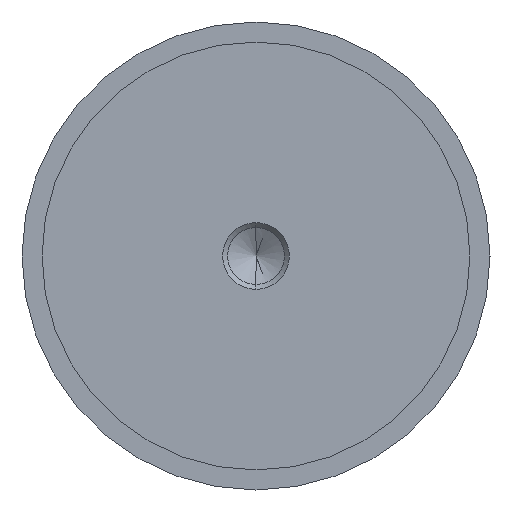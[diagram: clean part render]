
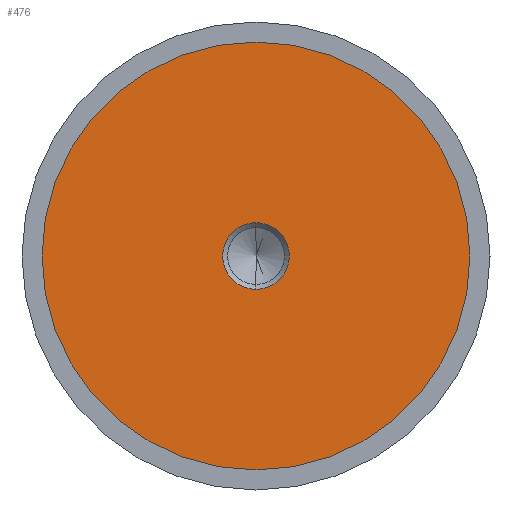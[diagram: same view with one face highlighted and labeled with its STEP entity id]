
A CAD part, left-side view. The second image highlights one B-rep face of the part: STEP entity #476.
In plain terms, the highlighted planar face has unit normal (-1, 0, 0).
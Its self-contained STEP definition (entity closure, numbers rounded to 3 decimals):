
#3 = ORIENTED_EDGE ( 'NONE', *, *, #36, .T. ) ;
#36 = EDGE_CURVE ( 'NONE', #724, #721, #343, .T. ) ;
#44 = CARTESIAN_POINT ( 'NONE',  ( -34.99, 32., 0. ) ) ;
#45 = AXIS2_PLACEMENT_3D ( 'NONE', #44, #274, #659 ) ;
#47 = AXIS2_PLACEMENT_3D ( 'NONE', #740, #668, #605 ) ;
#88 = DIRECTION ( 'NONE',  ( -1., 0., 0. ) ) ;
#100 = FACE_OUTER_BOUND ( 'NONE', #410, .T. ) ;
#106 = CIRCLE ( 'NONE', #47, 32. ) ;
#115 = DIRECTION ( 'NONE',  ( 0., 0., -1. ) ) ;
#128 = CARTESIAN_POINT ( 'NONE',  ( -34.99, 0., 0. ) ) ;
#175 = CARTESIAN_POINT ( 'NONE',  ( -34.99, 0., 0. ) ) ;
#179 = VERTEX_POINT ( 'NONE', #595 ) ;
#185 = EDGE_CURVE ( 'NONE', #179, #692, #347, .T. ) ;
#239 = ORIENTED_EDGE ( 'NONE', *, *, #185, .T. ) ;
#265 = AXIS2_PLACEMENT_3D ( 'NONE', #402, #88, #749 ) ;
#274 = DIRECTION ( 'NONE',  ( 1., 0., 0. ) ) ;
#343 = CIRCLE ( 'NONE', #265, 32. ) ;
#347 = CIRCLE ( 'NONE', #754, 4.99 ) ;
#350 = PLANE ( 'NONE',  #45 ) ;
#402 = CARTESIAN_POINT ( 'NONE',  ( -34.99, 0., 0. ) ) ;
#408 = DIRECTION ( 'NONE',  ( 0., 0., -1. ) ) ;
#410 = EDGE_LOOP ( 'NONE', ( #3, #580 ) ) ;
#418 = EDGE_LOOP ( 'NONE', ( #239, #540 ) ) ;
#470 = FACE_BOUND ( 'NONE', #418, .T. ) ;
#476 = ADVANCED_FACE ( 'NONE', ( #470, #100 ), #350, .F. ) ;
#540 = ORIENTED_EDGE ( 'NONE', *, *, #541, .T. ) ;
#541 = EDGE_CURVE ( 'NONE', #692, #179, #567, .T. ) ;
#557 = EDGE_CURVE ( 'NONE', #721, #724, #106, .T. ) ;
#567 = CIRCLE ( 'NONE', #710, 4.99 ) ;
#568 = CARTESIAN_POINT ( 'NONE',  ( -34.99, 0., -32. ) ) ;
#580 = ORIENTED_EDGE ( 'NONE', *, *, #557, .T. ) ;
#586 = DIRECTION ( 'NONE',  ( 1., 0., 0. ) ) ;
#595 = CARTESIAN_POINT ( 'NONE',  ( -34.99, 0., 4.99 ) ) ;
#605 = DIRECTION ( 'NONE',  ( 0., 0., 1. ) ) ;
#608 = DIRECTION ( 'NONE',  ( 1., 0., 0. ) ) ;
#624 = CARTESIAN_POINT ( 'NONE',  ( -34.99, 0., 32. ) ) ;
#659 = DIRECTION ( 'NONE',  ( 0., 0., -1. ) ) ;
#668 = DIRECTION ( 'NONE',  ( -1., 0., 0. ) ) ;
#692 = VERTEX_POINT ( 'NONE', #694 ) ;
#694 = CARTESIAN_POINT ( 'NONE',  ( -34.99, 0., -4.99 ) ) ;
#710 = AXIS2_PLACEMENT_3D ( 'NONE', #128, #608, #115 ) ;
#721 = VERTEX_POINT ( 'NONE', #568 ) ;
#724 = VERTEX_POINT ( 'NONE', #624 ) ;
#740 = CARTESIAN_POINT ( 'NONE',  ( -34.99, 0., 0. ) ) ;
#749 = DIRECTION ( 'NONE',  ( 0., 0., 1. ) ) ;
#754 = AXIS2_PLACEMENT_3D ( 'NONE', #175, #586, #408 ) ;
